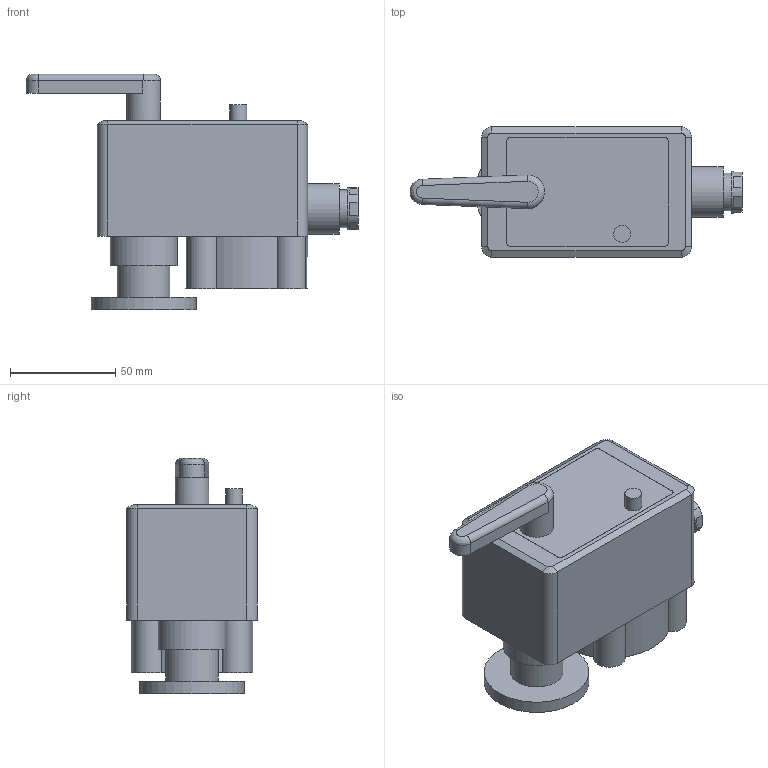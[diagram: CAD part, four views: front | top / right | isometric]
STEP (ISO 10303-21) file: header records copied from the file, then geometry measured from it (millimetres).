
FILE_DESCRIPTION(/* description */ ('ATTUATORE SM 80'),/* implementation_level */ '2;1');
FILE_NAME(/* name */ 'SM80.stp',/* time_stamp */ '2024-09-04T10:01:02+02:00',/* author */ ('ut4'),/* organization */ (''),/* preprocessor_version */ 'ST-DEVELOPER v20',/* originating_system */ 'Autodesk Inventor 2024',/* authorisation */ '');
FILE_SCHEMA (('AUTOMOTIVE_DESIGN { 1 0 10303 214 3 1 1 }'));
Length unit declared in the file: millimetre
Products named in the file (1): ATTUATORE SM80
Bounding box: 158 x 62 x 112 mm (x, y, z)
Volume: 462215.5 mm3; surface area: 47364.4 mm2
Topology: 1 solids, 1 shells, 74 faces, 175 edges, 112 vertices
Faces by surface type: plane 39, cylinder 28, cone 5, torus 1, bspline 1
Full cylindrical faces by diameter (mm): 8 x1, 11.5 x1, 16 x1, 18 x1, 20 x1, 24 x1, 25 x1, 32 x1, 50 x1
Entity records: 2214 total; most frequent: DIRECTION 399, CARTESIAN_POINT 375, ORIENTED_EDGE 348, EDGE_CURVE 174, AXIS2_PLACEMENT_3D 151, VERTEX_POINT 112, LINE 97, VECTOR 97
